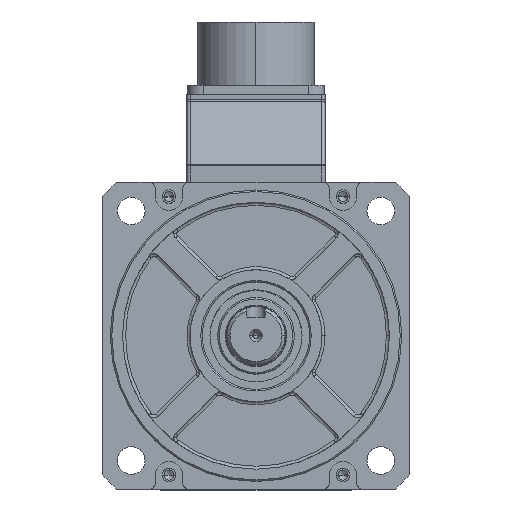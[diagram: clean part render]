
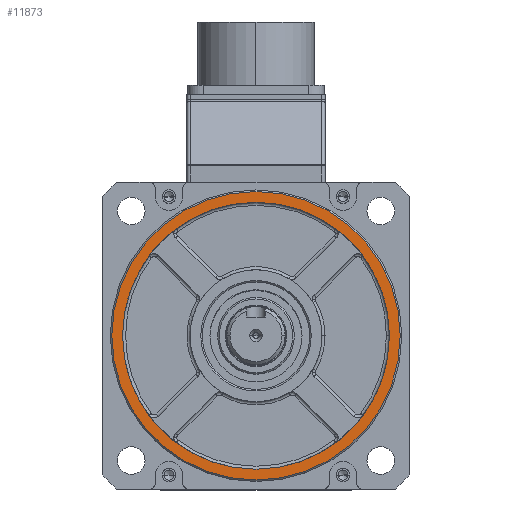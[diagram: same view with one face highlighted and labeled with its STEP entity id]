
A CAD part, top view. The second image highlights one B-rep face of the part: STEP entity #11873.
In plain terms, the highlighted planar face has unit normal (0, 0, 1).
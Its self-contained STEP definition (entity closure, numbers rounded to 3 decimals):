
#943 = DIRECTION ( 'NONE',  ( 1., 0., 0. ) ) ;
#1092 = EDGE_CURVE ( 'NONE', #11468, #54786, #36483, .T. ) ;
#2997 = CARTESIAN_POINT ( 'NONE',  ( -47., 0., 13. ) ) ;
#6367 = EDGE_CURVE ( 'NONE', #54786, #11468, #53699, .T. ) ;
#6666 = CIRCLE ( 'NONE', #53348, 43.5 ) ;
#6958 = DIRECTION ( 'NONE',  ( 1., 0., 0. ) ) ;
#8102 = DIRECTION ( 'NONE',  ( 0., 0., 1. ) ) ;
#9640 = CARTESIAN_POINT ( 'NONE',  ( 0., 0., 13. ) ) ;
#11468 = VERTEX_POINT ( 'NONE', #2997 ) ;
#11873 = ADVANCED_FACE ( 'NONE', ( #51669, #47868 ), #56635, .T. ) ;
#13021 = EDGE_LOOP ( 'NONE', ( #17482, #40834 ) ) ;
#13732 = DIRECTION ( 'NONE',  ( 1., 0., 0. ) ) ;
#17482 = ORIENTED_EDGE ( 'NONE', *, *, #1092, .T. ) ;
#19771 = ORIENTED_EDGE ( 'NONE', *, *, #44540, .F. ) ;
#25327 = DIRECTION ( 'NONE',  ( 0., 0., 1. ) ) ;
#27467 = DIRECTION ( 'NONE',  ( 0., 0., 1. ) ) ;
#29167 = EDGE_LOOP ( 'NONE', ( #48689, #19771 ) ) ;
#29326 = CARTESIAN_POINT ( 'NONE',  ( 47., 0., 13. ) ) ;
#29353 = CARTESIAN_POINT ( 'NONE',  ( 0., 0., 13. ) ) ;
#29708 = DIRECTION ( 'NONE',  ( 1., 0., 0. ) ) ;
#29733 = CARTESIAN_POINT ( 'NONE',  ( 0., 0., 13. ) ) ;
#31297 = AXIS2_PLACEMENT_3D ( 'NONE', #29353, #55387, #46900 ) ;
#33062 = VERTEX_POINT ( 'NONE', #33750 ) ;
#33750 = CARTESIAN_POINT ( 'NONE',  ( -43.5, 0., 13. ) ) ;
#34373 = CARTESIAN_POINT ( 'NONE',  ( 0., 0., 13. ) ) ;
#34614 = AXIS2_PLACEMENT_3D ( 'NONE', #36602, #53867, #943 ) ;
#36483 = CIRCLE ( 'NONE', #34614, 47. ) ;
#36602 = CARTESIAN_POINT ( 'NONE',  ( 0., 0., 13. ) ) ;
#40238 = CIRCLE ( 'NONE', #46742, 43.5 ) ;
#40834 = ORIENTED_EDGE ( 'NONE', *, *, #6367, .T. ) ;
#43955 = EDGE_CURVE ( 'NONE', #49402, #33062, #40238, .T. ) ;
#44540 = EDGE_CURVE ( 'NONE', #33062, #49402, #6666, .T. ) ;
#44824 = CARTESIAN_POINT ( 'NONE',  ( 43.5, 0., 13. ) ) ;
#46742 = AXIS2_PLACEMENT_3D ( 'NONE', #9640, #27467, #13732 ) ;
#46766 = AXIS2_PLACEMENT_3D ( 'NONE', #29733, #8102, #6958 ) ;
#46900 = DIRECTION ( 'NONE',  ( 1., 0., 0. ) ) ;
#47868 = FACE_BOUND ( 'NONE', #29167, .T. ) ;
#48689 = ORIENTED_EDGE ( 'NONE', *, *, #43955, .F. ) ;
#49402 = VERTEX_POINT ( 'NONE', #44824 ) ;
#51669 = FACE_OUTER_BOUND ( 'NONE', #13021, .T. ) ;
#53348 = AXIS2_PLACEMENT_3D ( 'NONE', #34373, #25327, #29708 ) ;
#53699 = CIRCLE ( 'NONE', #31297, 47. ) ;
#53867 = DIRECTION ( 'NONE',  ( 0., 0., 1. ) ) ;
#54786 = VERTEX_POINT ( 'NONE', #29326 ) ;
#55387 = DIRECTION ( 'NONE',  ( 0., 0., 1. ) ) ;
#56635 = PLANE ( 'NONE',  #46766 ) ;
